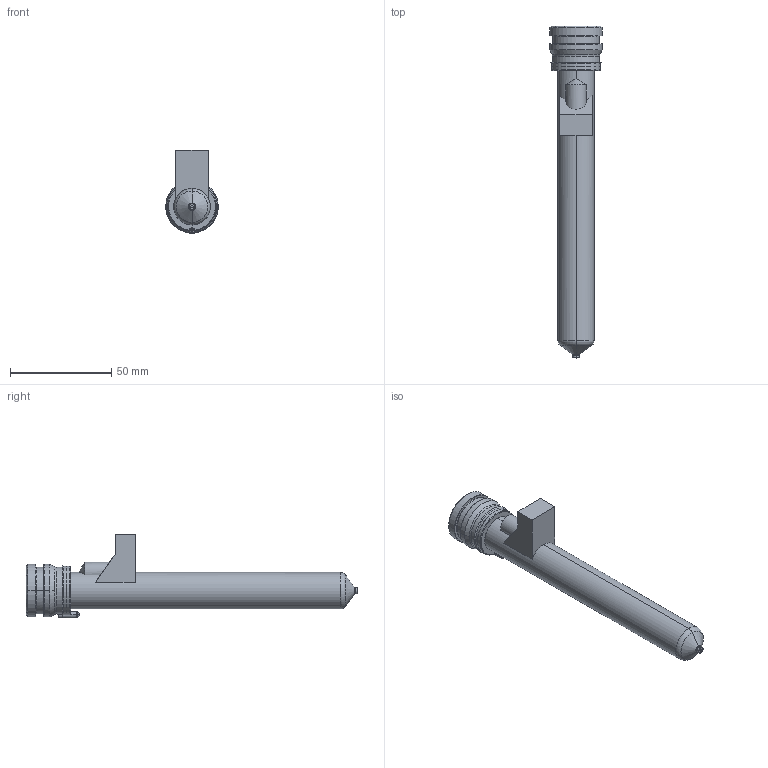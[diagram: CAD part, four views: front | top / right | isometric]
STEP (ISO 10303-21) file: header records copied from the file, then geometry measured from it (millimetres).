
FILE_DESCRIPTION((''),'2;1');
FILE_NAME('MPN-08-24-VP3-146-M','2026-02-05T13:33:07',('UPTIO'),('Thermoplay S.p.A.'),'CREO PARAMETRIC BY PTC INC, 2023494','CREO PARAMETRIC BY PTC INC, 2023494','');
FILE_SCHEMA(('CONFIG_CONTROL_DESIGN','SHAPE_APPEARANCE_LAYERS_GROUPS'));
Length unit declared in the file: millimetre
Products named in the file (1): MPN-08-24-VP3-146-M
Bounding box: 26 x 164.1 x 41.5 mm (x, y, z)
Volume: 31325.4 mm3; surface area: 41764.9 mm2
Topology: 2 solids, 3 shells, 571 faces, 1494 edges, 922 vertices
Faces by surface type: cylinder 178, plane 143, bspline 103, torus 68, cone 66, sphere 7, extrusion 6
Entity records: 30032 total; most frequent: CARTESIAN_POINT 13522, ORIENTED_EDGE 2970, DIRECTION 2631, EDGE_CURVE 1485, AXIS2_PLACEMENT_3D 1029, VERTEX_POINT 922, EDGE_LOOP 601, VECTOR 573
